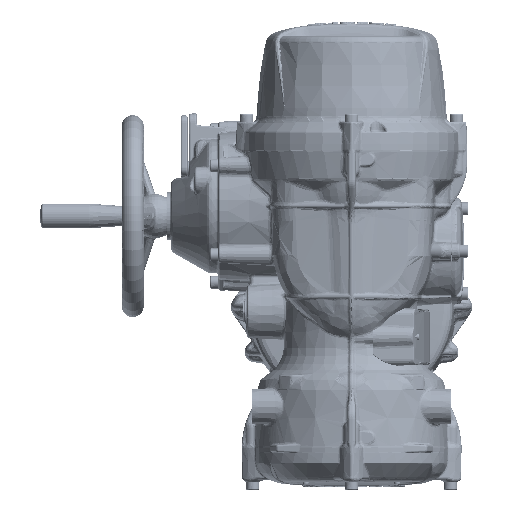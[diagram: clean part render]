
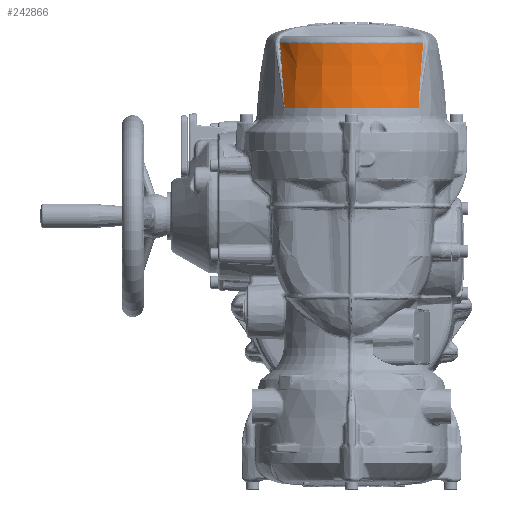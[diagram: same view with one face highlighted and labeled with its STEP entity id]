
A CAD part, top view. The second image highlights one B-rep face of the part: STEP entity #242866.
In plain terms, the highlighted conical face has half-angle 7.419 degrees and reference radius 90.824 mm.
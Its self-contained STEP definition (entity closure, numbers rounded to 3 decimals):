
#7455=CONICAL_SURFACE('',#254437,90.824,0.129);
#27693=CIRCLE('',#254359,82.407);
#27747=CIRCLE('',#254438,90.824);
#62906=ORIENTED_EDGE('',*,*,#97559,.T.);
#62907=ORIENTED_EDGE('',*,*,#97834,.T.);
#62908=ORIENTED_EDGE('',*,*,#97835,.T.);
#62909=ORIENTED_EDGE('',*,*,#97836,.T.);
#97559=EDGE_CURVE('',#116825,#116824,#27693,.F.);
#97834=EDGE_CURVE('',#116824,#117033,#131681,.T.);
#97835=EDGE_CURVE('',#117033,#117034,#27747,.F.);
#97836=EDGE_CURVE('',#117034,#116825,#131682,.T.);
#116824=VERTEX_POINT('',#466161);
#116825=VERTEX_POINT('',#466163);
#117033=VERTEX_POINT('',#471003);
#117034=VERTEX_POINT('',#471005);
#131681=B_SPLINE_CURVE_WITH_KNOTS('',3,(#470979,#470980,#470981,#470982,
#470983,#470984,#470985,#470986,#470987,#470988,#470989,#470990,#470991,
#470992,#470993,#470994,#470995,#470996,#470997,#470998,#470999,#471000,
#471001,#471002),.UNSPECIFIED.,.F.,.F.,(4,1,1,1,1,1,1,1,1,1,1,1,1,1,1,1,
1,1,1,1,1,4),(0.,0.008,0.017,0.025,
0.034,0.038,0.042,0.047,
0.051,0.053,0.055,0.057,
0.059,0.062,0.063,0.064,
0.065,0.066,0.066,0.067,
0.067,0.068),.UNSPECIFIED.);
#131682=B_SPLINE_CURVE_WITH_KNOTS('',3,(#471006,#471007,#471008,#471009,
#471010,#471011,#471012,#471013,#471014,#471015,#471016,#471017,#471018,
#471019,#471020,#471021,#471022,#471023,#471024,#471025,#471026,#471027,
#471028,#471029),.UNSPECIFIED.,.F.,.F.,(4,1,1,1,1,1,1,1,1,1,1,1,1,1,1,1,
1,1,1,1,1,4),(0.,0.001,0.001,0.002,
0.002,0.003,0.004,0.005,
0.006,0.009,0.011,0.013,
0.015,0.017,0.021,0.026,
0.03,0.034,0.043,0.051,
0.06,0.068),.UNSPECIFIED.);
#141520=EDGE_LOOP('',(#62906,#62907,#62908,#62909));
#153146=FACE_BOUND('',#141520,.T.);
#242866=ADVANCED_FACE('',(#153146),#7455,.T.);
#254359=AXIS2_PLACEMENT_3D('',#466162,#277874,#277875);
#254437=AXIS2_PLACEMENT_3D('',#470978,#278061,#278062);
#254438=AXIS2_PLACEMENT_3D('',#471004,#278063,#278064);
#277874=DIRECTION('',(0.,1.,0.));
#277875=DIRECTION('',(-1.,0.,0.));
#278061=DIRECTION('',(0.,-1.,0.));
#278062=DIRECTION('',(1.,0.,0.));
#278063=DIRECTION('',(0.,-1.,0.));
#278064=DIRECTION('',(1.,0.,0.));
#466161=CARTESIAN_POINT('',(-70.895,218.783,42.009));
#466162=CARTESIAN_POINT('',(0.,218.783,0.));
#466163=CARTESIAN_POINT('',(70.895,218.783,42.009));
#470978=CARTESIAN_POINT('',(0.,154.15,0.));
#470979=CARTESIAN_POINT('',(-70.895,218.783,42.009));
#470980=CARTESIAN_POINT('',(-70.6,216.209,43.165));
#470981=CARTESIAN_POINT('',(-70.244,210.878,45.051));
#470982=CARTESIAN_POINT('',(-69.625,202.886,47.867));
#470983=CARTESIAN_POINT('',(-68.978,194.861,50.578));
#470984=CARTESIAN_POINT('',(-68.418,188.152,52.768));
#470985=CARTESIAN_POINT('',(-67.967,182.769,54.468));
#470986=CARTESIAN_POINT('',(-67.632,178.722,55.717));
#470987=CARTESIAN_POINT('',(-67.303,174.665,56.935));
#470988=CARTESIAN_POINT('',(-67.04,171.274,57.919));
#470989=CARTESIAN_POINT('',(-66.842,168.554,58.685));
#470990=CARTESIAN_POINT('',(-66.702,166.51,59.246));
#470991=CARTESIAN_POINT('',(-66.573,164.461,59.791));
#470992=CARTESIAN_POINT('',(-66.459,162.405,60.316));
#470993=CARTESIAN_POINT('',(-66.383,160.686,60.732));
#470994=CARTESIAN_POINT('',(-66.34,159.306,61.044));
#470995=CARTESIAN_POINT('',(-66.32,158.266,61.266));
#470996=CARTESIAN_POINT('',(-66.317,157.224,61.469));
#470997=CARTESIAN_POINT('',(-66.336,156.351,61.616));
#470998=CARTESIAN_POINT('',(-66.376,155.65,61.707));
#470999=CARTESIAN_POINT('',(-66.425,155.119,61.756));
#471000=CARTESIAN_POINT('',(-66.508,154.607,61.764));
#471001=CARTESIAN_POINT('',(-66.621,154.232,61.714));
#471002=CARTESIAN_POINT('',(-66.738,154.15,61.604));
#471003=CARTESIAN_POINT('',(-66.738,154.15,61.604));
#471004=CARTESIAN_POINT('',(0.,154.15,0.));
#471005=CARTESIAN_POINT('',(66.738,154.15,61.604));
#471006=CARTESIAN_POINT('',(66.738,154.15,61.604));
#471007=CARTESIAN_POINT('',(66.621,154.232,61.714));
#471008=CARTESIAN_POINT('',(66.508,154.607,61.764));
#471009=CARTESIAN_POINT('',(66.425,155.119,61.756));
#471010=CARTESIAN_POINT('',(66.376,155.65,61.707));
#471011=CARTESIAN_POINT('',(66.336,156.351,61.616));
#471012=CARTESIAN_POINT('',(66.317,157.224,61.469));
#471013=CARTESIAN_POINT('',(66.32,158.266,61.266));
#471014=CARTESIAN_POINT('',(66.34,159.306,61.044));
#471015=CARTESIAN_POINT('',(66.383,160.686,60.732));
#471016=CARTESIAN_POINT('',(66.459,162.405,60.316));
#471017=CARTESIAN_POINT('',(66.573,164.461,59.791));
#471018=CARTESIAN_POINT('',(66.702,166.51,59.246));
#471019=CARTESIAN_POINT('',(66.842,168.554,58.685));
#471020=CARTESIAN_POINT('',(67.04,171.274,57.919));
#471021=CARTESIAN_POINT('',(67.303,174.665,56.935));
#471022=CARTESIAN_POINT('',(67.632,178.722,55.717));
#471023=CARTESIAN_POINT('',(67.967,182.769,54.468));
#471024=CARTESIAN_POINT('',(68.418,188.152,52.768));
#471025=CARTESIAN_POINT('',(68.978,194.861,50.578));
#471026=CARTESIAN_POINT('',(69.625,202.886,47.867));
#471027=CARTESIAN_POINT('',(70.244,210.878,45.051));
#471028=CARTESIAN_POINT('',(70.6,216.209,43.165));
#471029=CARTESIAN_POINT('',(70.895,218.783,42.009));
